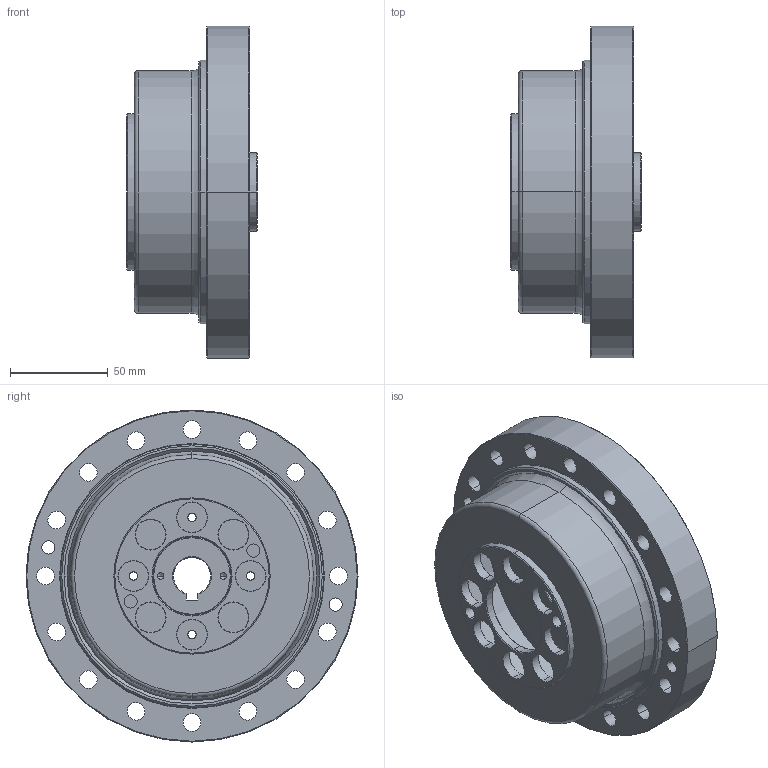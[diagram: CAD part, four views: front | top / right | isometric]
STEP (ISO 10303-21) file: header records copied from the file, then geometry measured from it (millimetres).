
FILE_DESCRIPTION (( 'STEP AP203' ), '1' );
FILE_NAME ('FCS-50-XXX-CJ.STEP', '2023-01-18T02:30:19', ( '微软用户' ), ( '微软中国' ), 'SwSTEP 2.0', 'SolidWorks 2016', '' );
FILE_SCHEMA (( 'CONFIG_CONTROL_DESIGN' ));
Length unit declared in the file: millimetre
Products named in the file (1): FCS-50-XXX-CJ
Bounding box: 67 x 170 x 170 mm (x, y, z)
Volume: 451587.1 mm3; surface area: 193795.6 mm2
Topology: 29 solids, 29 shells, 386 faces, 1017 edges, 649 vertices
Faces by surface type: cylinder 171, cone 70, plane 69, sphere 46, torus 30
Entity records: 11451 total; most frequent: DIRECTION 2268, CARTESIAN_POINT 1877, ORIENTED_EDGE 1796, AXIS2_PLACEMENT_3D 987, EDGE_CURVE 898, CIRCLE 600, VERTEX_POINT 580, EDGE_LOOP 472
